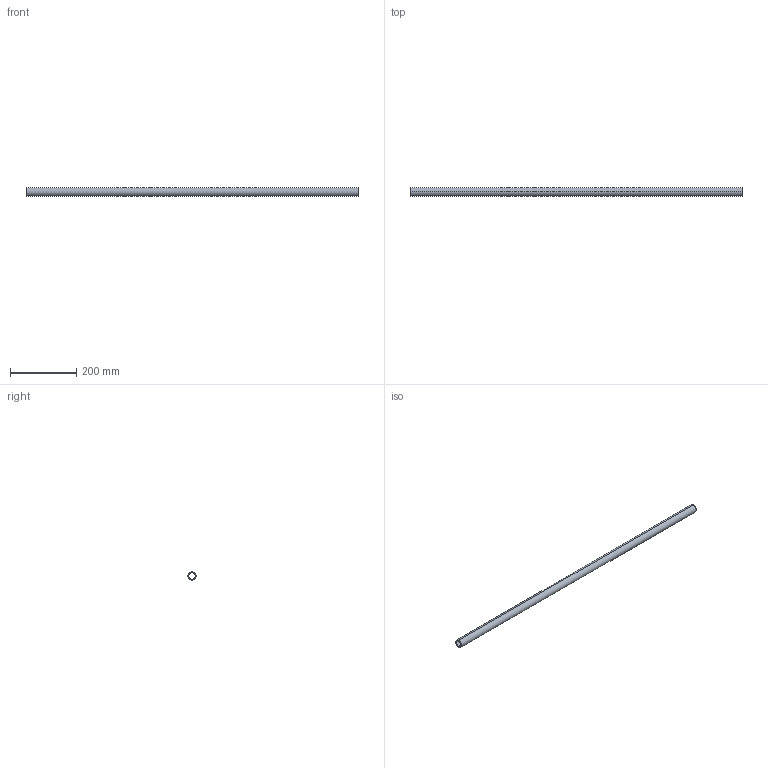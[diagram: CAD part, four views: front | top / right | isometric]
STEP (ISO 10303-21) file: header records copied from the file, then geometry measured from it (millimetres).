
FILE_DESCRIPTION (( 'STEP AP203' ), '1' );
FILE_NAME ('KP_25EC.step', '2011-08-08T11:50:06', ( '' ), ( '' ), 'SwSTEP 2.0', 'SolidWorks 2011', '' );
FILE_SCHEMA (( 'CONFIG_CONTROL_DESIGN' ));
Length unit declared in the file: millimetre
Products named in the file (1): KP_25EC
Bounding box: 1000 x 25.15 x 25.15 mm (x, y, z)
Volume: 214743.6 mm3; surface area: 138973.7 mm2
Topology: 1 solids, 1 shells, 6 faces, 12 edges, 8 vertices
Faces by surface type: cylinder 4, plane 2
Entity records: 245 total; most frequent: DIRECTION 34, CARTESIAN_POINT 27, ORIENTED_EDGE 24, AXIS2_PLACEMENT_3D 15, EDGE_CURVE 12, PERSON_AND_ORGANIZATION 8, EDGE_LOOP 8, CIRCLE 8
